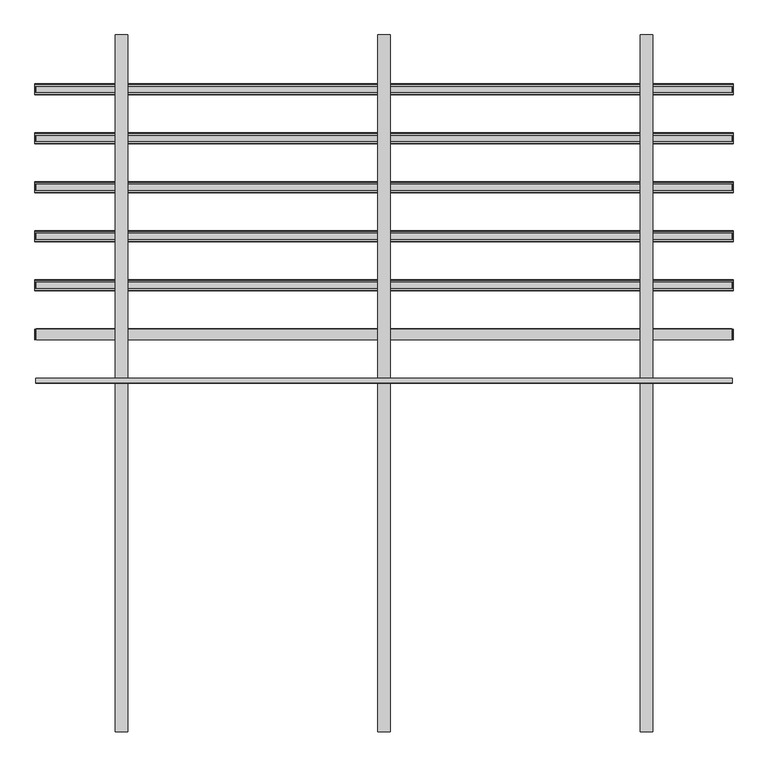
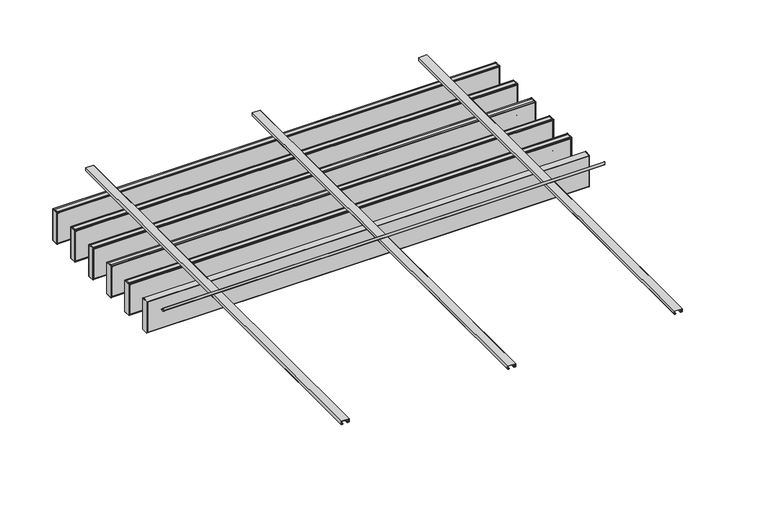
"""IFC4 building model written with IfcOpenShell, lengths in millimetres: proxy geometry, durlum_POLYLAM_KS : durlum_POLYLAM-KS/-S 63 RV-L6."""

from ifc_helpers import new_model, si_unit, point, frame, frame_2d, origin, place, context, project, spatial, polyline, circle_curve, trimmed, segment, composite_curve, outline, extrude, source, transform, mapped, element, save
from ifc_brep_helpers import plane_surface, cylinder_surface, advanced_brep


def generic_models_b5b58d67(model_context):
    return source(origin(), model_context, "Body", "SolidModel", [
        extrude(outline(polyline([(2027.0, 20.5), (2020.0, 20.5), (2020.0, 35.0), (2050.0, 35.0), (2050.0, -35.0), (2020.0, -35.0), (2020.0, -20.5), (2027.0, -20.5), (2027.0, -22.0), (2021.5, -22.0), (2021.5, -33.5), (2048.5, -33.5), (2048.5, 33.5), (2021.5, 33.5), (2021.5, 22.0), (2027.0, 22.0), (2027.0, 20.5)])), frame((0.0, -1991.5, 0.0), z_axis=(0.0, 1.0, 0.0), x_axis=(0.0, 0.0, 1.0)), (0.0, 0.0, 1.0), 3983.0),
        extrude(outline(polyline([(2027.0, -1479.5), (2020.0, -1479.5), (2020.0, -1465.0), (2050.0, -1465.0), (2050.0, -1535.0), (2020.0, -1535.0), (2020.0, -1520.5), (2027.0, -1520.5), (2027.0, -1522.0), (2021.5, -1522.0), (2021.5, -1533.5), (2048.5, -1533.5), (2048.5, -1466.5), (2021.5, -1466.5), (2021.5, -1478.0), (2027.0, -1478.0), (2027.0, -1479.5)])), frame((0.0, -1991.5, 0.0), z_axis=(0.0, 1.0, 0.0), x_axis=(0.0, 0.0, 1.0)), (0.0, 0.0, 1.0), 3983.0),
        extrude(outline(polyline([(2027.0, 1520.5), (2020.0, 1520.5), (2020.0, 1535.0), (2050.0, 1535.0), (2050.0, 1465.0), (2020.0, 1465.0), (2020.0, 1479.5), (2027.0, 1479.5), (2027.0, 1478.0), (2021.5, 1478.0), (2021.5, 1466.5), (2048.5, 1466.5), (2048.5, 1533.5), (2021.5, 1533.5), (2021.5, 1522.0), (2027.0, 1522.0), (2027.0, 1520.5)])), frame((0.0, -1991.5, 0.0), z_axis=(0.0, 1.0, 0.0), x_axis=(0.0, 0.0, 1.0)), (0.0, 0.0, 1.0), 3983.0),
        extrude(outline(composite_curve([segment(polyline([(2.0, 2079.9), (2.0, 2054.0)]), True, "CONTINUOUS"), segment(trimmed(circle_curve(frame_2d((4.0, 2054.0)), 2.0), [point((2.0, 2054.0))], [point((4.0, 2052.0))], True, "CARTESIAN"), True, "CONTINUOUS"), segment(polyline([(4.0, 2052.0), (29.9, 2052.0), (29.9, 2050.0), (4.0, 2050.0)]), True, "CONTINUOUS"), segment(trimmed(circle_curve(frame_2d((4.0, 2054.0)), 4.0), [point((4.0, 2050.0))], [point((0.0, 2054.0))], False, "CARTESIAN"), True, "CONTINUOUS"), segment(polyline([(0.0, 2054.0), (0.0, 2079.9), (2.0, 2079.9)]), True, "CONTINUOUS")], self_intersect=False)), frame((-1990.0, 0.0, 0.0), z_axis=(1.0, 0.0, 0.0), x_axis=(0.0, 1.0, 0.0)), (0.0, 0.0, 1.0), 3980.0),
        extrude(outline(polyline([(1993.0, 1710.5), (1995.0, 1710.5), (1995.0, 1649.5), (1993.0, 1649.5), (1993.0, 1710.5)])), frame((0.0, 0.0, 1691.9), z_axis=(0.0, 0.0, 1.0), x_axis=(1.0, 0.0, 0.0)), (0.0, 0.0, 1.0), 298.1604454),
        extrude(outline(polyline([(-1995.0, 1710.5), (-1993.0, 1710.5), (-1993.0, 1649.5), (-1995.0, 1649.5), (-1995.0, 1710.5)])), frame((0.0, 0.0, 1691.9), z_axis=(0.0, 0.0, 1.0), x_axis=(1.0, 0.0, 0.0)), (0.0, 0.0, 1.0), 298.1604454),
        extrude(outline(polyline([(1986.5, 1710.5), (1986.5, 1649.5), (-1986.5, 1649.5), (-1986.5, 1710.5), (1986.5, 1710.5)])), frame((0.0, 0.0, 1691.9), z_axis=(0.0, 0.0, 1.0), x_axis=(1.0, 0.0, 0.0)), (0.0, 0.0, 1.0), 298.0),
        extrude(outline(polyline([(1986.5, 1710.5), (-1986.5, 1710.5), (-1986.5, 1711.5), (1986.5, 1711.5), (1986.5, 1710.5)])), frame((0.0, 0.0, 1699.4), z_axis=(0.0, 0.0, 1.0), x_axis=(1.0, 0.0, 0.0)), (0.0, 0.0, 1.0), 283.0),
        extrude(outline(polyline([(1986.5, 1648.5), (-1986.5, 1648.5), (-1986.5, 1649.5), (1986.5, 1649.5), (1986.5, 1648.5)])), frame((0.0, 0.0, 1699.4), z_axis=(0.0, 0.0, 1.0), x_axis=(1.0, 0.0, 0.0)), (0.0, 0.0, 1.0), 283.0),
        advanced_brep(
        [(1995.0, 1709.5, 1990.9), (1995.0, 1699.5, 1990.9), (1995.0, 1699.5, 1990.0604454), (1995.0, 1710.5, 1990.0604454), (1995.0, 1710.5, 1691.9), (1995.0, 1649.5, 1691.9), (1995.0, 1649.5, 1989.8155735), (1995.0, 1660.5, 1989.8155735), (1995.0, 1660.5, 1990.9), (1995.0, 1650.5, 1990.9), (1995.0, 1648.5, 1988.9), (1995.0, 1648.5, 1692.9), (1995.0, 1650.5, 1690.9), (1995.0, 1709.5, 1690.9), (1995.0, 1711.5, 1692.9), (1995.0, 1711.5, 1988.9), (-1995.0, 1709.5, 1990.9), (-1995.0, 1711.5, 1988.9), (-1995.0, 1711.5, 1692.9), (-1995.0, 1709.5, 1690.9), (-1995.0, 1650.5, 1690.9), (-1995.0, 1648.5, 1692.9), (-1995.0, 1648.5, 1988.9), (-1995.0, 1650.5, 1990.9), (-1995.0, 1660.5, 1990.9), (-1995.0, 1660.5, 1989.8155735), (-1995.0, 1649.5, 1989.8155735), (-1995.0, 1649.5, 1691.9), (-1995.0, 1710.5, 1691.9), (-1995.0, 1710.5, 1990.0604454), (-1995.0, 1699.5, 1990.0604454), (-1995.0, 1699.5, 1990.9), (-1986.5, 1710.5, 1982.4), (1986.5, 1710.5, 1982.4), (1986.5, 1710.5, 1699.4), (-1986.5, 1710.5, 1699.4), (1986.5, 1649.5, 1982.4), (-1986.5, 1649.5, 1982.4), (-1986.5, 1649.5, 1699.4), (1986.5, 1649.5, 1699.4), (-1986.5, 1648.5, 1982.4), (1986.5, 1648.5, 1982.4), (1986.5, 1648.5, 1699.4), (-1986.5, 1648.5, 1699.4), (1986.5, 1711.5, 1982.4), (-1986.5, 1711.5, 1982.4), (-1986.5, 1711.5, 1699.4), (1986.5, 1711.5, 1699.4)],
        [
            (0, 1),
            (1, 2),
            (2, 3),
            (3, 4),
            (4, 5),
            (5, 6),
            (6, 7),
            (7, 8),
            (8, 9),
            (9, 10, circle_curve(frame((1995.0, 1650.5, 1988.9), z_axis=(1.0, 0.0, 0.0), x_axis=(0.0, 1.0, 0.0)), 2.0)),
            (10, 11),
            (11, 12, circle_curve(frame((1995.0, 1650.5, 1692.9), z_axis=(1.0, 0.0, 0.0), x_axis=(0.0, 1.0, 0.0)), 2.0)),
            (12, 13),
            (13, 14, circle_curve(frame((1995.0, 1709.5, 1692.9), z_axis=(1.0, 0.0, 0.0), x_axis=(0.0, 1.0, 0.0)), 2.0)),
            (14, 15),
            (15, 0, circle_curve(frame((1995.0, 1709.5, 1988.9), z_axis=(1.0, 0.0, 0.0), x_axis=(0.0, 1.0, 0.0)), 2.0)),
            (16, 17, circle_curve(frame((-1995.0, 1709.5, 1988.9), z_axis=(-1.0, 0.0, 0.0), x_axis=(0.0, 1.0, 0.0)), 2.0)),
            (17, 18),
            (18, 19, circle_curve(frame((-1995.0, 1709.5, 1692.9), z_axis=(-1.0, 0.0, 0.0), x_axis=(0.0, 1.0, 0.0)), 2.0)),
            (19, 20),
            (20, 21, circle_curve(frame((-1995.0, 1650.5, 1692.9), z_axis=(-1.0, 0.0, 0.0), x_axis=(0.0, 1.0, 0.0)), 2.0)),
            (21, 22),
            (22, 23, circle_curve(frame((-1995.0, 1650.5, 1988.9), z_axis=(-1.0, 0.0, 0.0), x_axis=(0.0, 1.0, 0.0)), 2.0)),
            (23, 24),
            (24, 25),
            (25, 26),
            (26, 27),
            (27, 28),
            (28, 29),
            (29, 30),
            (30, 31),
            (31, 16),
            (0, 16),
            (31, 1),
            (30, 2),
            (29, 3),
            (28, 4),
            (32, 33),
            (33, 34),
            (34, 35),
            (35, 32),
            (27, 5),
            (26, 6),
            (36, 37),
            (37, 38),
            (38, 39),
            (39, 36),
            (25, 7),
            (24, 8),
            (23, 9),
            (10, 22),
            (21, 11),
            (40, 41),
            (41, 42),
            (42, 43),
            (43, 40),
            (12, 20),
            (19, 13),
            (14, 18),
            (17, 15),
            (44, 45),
            (45, 46),
            (46, 47),
            (47, 44),
            (44, 33),
            (32, 45),
            (36, 41),
            (40, 37),
            (35, 46),
            (43, 38),
            (34, 47),
            (42, 39),
        ],
        [
            plane_surface(frame((1995.0, 1699.5, 1990.9), z_axis=(1.0, 0.0, 0.0), x_axis=(0.0, -1.0, 0.0))),
            plane_surface(frame((-1995.0, 1699.5, 1990.9), z_axis=(-1.0, 0.0, 0.0), x_axis=(0.0, 1.0, 0.0))),
            plane_surface(frame((1995.0, 1709.5, 1990.9), z_axis=(0.0, 0.0, 1.0), x_axis=(-1.0, 0.0, 0.0))),
            plane_surface(frame((1995.0, 1699.5, 1990.9), z_axis=(0.0, -1.0, 0.0), x_axis=(-1.0, 0.0, 0.0))),
            plane_surface(frame((1995.0, 1699.5, 1990.0604454), z_axis=(0.0, 0.0, -1.0), x_axis=(-1.0, 0.0, 0.0))),
            plane_surface(frame((1995.0, 1710.5, 1990.0604454), z_axis=(0.0, -1.0, 0.0), x_axis=(-1.0, 0.0, 0.0))),
            plane_surface(frame((1995.0, 1710.5, 1691.9), z_axis=(0.0, 0.0, 1.0), x_axis=(-1.0, 0.0, 0.0))),
            plane_surface(frame((1995.0, 1649.5, 1691.9), z_axis=(0.0, 1.0, 0.0), x_axis=(-1.0, 0.0, 0.0))),
            plane_surface(frame((1995.0, 1649.5, 1989.8155735), z_axis=(0.0, 0.0, -1.0), x_axis=(-1.0, 0.0, 0.0))),
            plane_surface(frame((1995.0, 1660.5, 1989.8155735), z_axis=(0.0, 1.0, 0.0), x_axis=(-1.0, 0.0, 0.0))),
            plane_surface(frame((1995.0, 1660.5, 1990.9), z_axis=(0.0, 0.0, 1.0), x_axis=(-1.0, 0.0, 0.0))),
            plane_surface(frame((1995.0, 1648.5, 1988.9), z_axis=(0.0, -1.0, 0.0), x_axis=(-1.0, 0.0, 0.0))),
            plane_surface(frame((1995.0, 1650.5, 1690.9), z_axis=(0.0, 0.0, -1.0), x_axis=(-1.0, 0.0, 0.0))),
            plane_surface(frame((1995.0, 1711.5, 1692.9), z_axis=(0.0, 1.0, 0.0), x_axis=(-1.0, 0.0, 0.0))),
            cylinder_surface(frame((-1995.0, 1650.5, 1988.9), z_axis=(1.0, 0.0, 0.0), x_axis=(0.0, 1.0, 0.0)), 2.0),
            cylinder_surface(frame((-1995.0, 1650.5, 1692.9), z_axis=(1.0, 0.0, 0.0), x_axis=(0.0, 1.0, 0.0)), 2.0),
            cylinder_surface(frame((-1995.0, 1709.5, 1692.9), z_axis=(1.0, 0.0, 0.0), x_axis=(0.0, 1.0, 0.0)), 2.0),
            cylinder_surface(frame((-1995.0, 1709.5, 1988.9), z_axis=(1.0, 0.0, 0.0), x_axis=(0.0, 1.0, 0.0)), 2.0),
            plane_surface(frame((1986.5, 1648.5, 1982.4), z_axis=(0.0, 0.0, -1.0), x_axis=(0.0, 1.0, 0.0))),
            plane_surface(frame((-1986.5, 1648.5, 1982.4), z_axis=(1.0, 0.0, 0.0), x_axis=(0.0, 1.0, 0.0))),
            plane_surface(frame((-1986.5, 1648.5, 1699.4), z_axis=(0.0, 0.0, 1.0), x_axis=(0.0, 1.0, 0.0))),
            plane_surface(frame((1986.5, 1648.5, 1699.4), z_axis=(-1.0, 0.0, 0.0), x_axis=(0.0, 1.0, 0.0))),
        ],
        [
            (0, [[1, 2, 3, 4, 5, 6, 7, 8, 9, 10, 11, 12, 13, 14, 15, 16]]),
            (1, [[17, 18, 19, 20, 21, 22, 23, 24, 25, 26, 27, 28, 29, 30, 31, 32]]),
            (2, [[-1, 33, -32, 34]]),
            (3, [[-2, -34, -31, 35]]),
            (4, [[-3, -35, -30, 36]]),
            (5, [[-4, -36, -29, 37], [38, 39, 40, 41]]),
            (6, [[-5, -37, -28, 42]]),
            (7, [[-6, -42, -27, 43], [44, 45, 46, 47]]),
            (8, [[-7, -43, -26, 48]]),
            (9, [[-8, -48, -25, 49]]),
            (10, [[-9, -49, -24, 50]]),
            (11, [[-11, 51, -22, 52], [53, 54, 55, 56]]),
            (12, [[-13, 57, -20, 58]]),
            (13, [[-15, 59, -18, 60], [61, 62, 63, 64]]),
            (14, [[-10, -50, -23, -51]]),
            (15, [[-12, -52, -21, -57]]),
            (16, [[-14, -58, -19, -59]]),
            (17, [[-16, -60, -17, -33]]),
            (18, [[65, -38, 66, -61]]),
            (18, [[67, -53, 68, -44]]),
            (19, [[-66, -41, 69, -62]]),
            (19, [[-68, -56, 70, -45]]),
            (20, [[-69, -40, 71, -63]]),
            (20, [[-70, -55, 72, -46]]),
            (21, [[-65, -64, -71, -39]]),
            (21, [[-67, -47, -72, -54]]),
        ],
    ),
        extrude(outline(polyline([(1993.0, 1430.5), (1995.0, 1430.5), (1995.0, 1369.5), (1993.0, 1369.5), (1993.0, 1430.5)])), frame((0.0, 0.0, 1691.9), z_axis=(0.0, 0.0, 1.0), x_axis=(1.0, 0.0, 0.0)), (0.0, 0.0, 1.0), 298.1604454),
        extrude(outline(polyline([(-1995.0, 1430.5), (-1993.0, 1430.5), (-1993.0, 1369.5), (-1995.0, 1369.5), (-1995.0, 1430.5)])), frame((0.0, 0.0, 1691.9), z_axis=(0.0, 0.0, 1.0), x_axis=(1.0, 0.0, 0.0)), (0.0, 0.0, 1.0), 298.1604454),
        extrude(outline(polyline([(1986.5, 1430.5), (1986.5, 1369.5), (-1986.5, 1369.5), (-1986.5, 1430.5), (1986.5, 1430.5)])), frame((0.0, 0.0, 1691.9), z_axis=(0.0, 0.0, 1.0), x_axis=(1.0, 0.0, 0.0)), (0.0, 0.0, 1.0), 298.0),
        extrude(outline(polyline([(1986.5, 1430.5), (-1986.5, 1430.5), (-1986.5, 1431.5), (1986.5, 1431.5), (1986.5, 1430.5)])), frame((0.0, 0.0, 1699.4), z_axis=(0.0, 0.0, 1.0), x_axis=(1.0, 0.0, 0.0)), (0.0, 0.0, 1.0), 283.0),
        extrude(outline(polyline([(1986.5, 1368.5), (-1986.5, 1368.5), (-1986.5, 1369.5), (1986.5, 1369.5), (1986.5, 1368.5)])), frame((0.0, 0.0, 1699.4), z_axis=(0.0, 0.0, 1.0), x_axis=(1.0, 0.0, 0.0)), (0.0, 0.0, 1.0), 283.0),
        advanced_brep(
        [(1995.0, 1429.5, 1990.9), (1995.0, 1419.5, 1990.9), (1995.0, 1419.5, 1990.0604454), (1995.0, 1430.5, 1990.0604454), (1995.0, 1430.5, 1691.9), (1995.0, 1369.5, 1691.9), (1995.0, 1369.5, 1989.8155735), (1995.0, 1380.5, 1989.8155735), (1995.0, 1380.5, 1990.9), (1995.0, 1370.5, 1990.9), (1995.0, 1368.5, 1988.9), (1995.0, 1368.5, 1692.9), (1995.0, 1370.5, 1690.9), (1995.0, 1429.5, 1690.9), (1995.0, 1431.5, 1692.9), (1995.0, 1431.5, 1988.9), (-1995.0, 1429.5, 1990.9), (-1995.0, 1431.5, 1988.9), (-1995.0, 1431.5, 1692.9), (-1995.0, 1429.5, 1690.9), (-1995.0, 1370.5, 1690.9), (-1995.0, 1368.5, 1692.9), (-1995.0, 1368.5, 1988.9), (-1995.0, 1370.5, 1990.9), (-1995.0, 1380.5, 1990.9), (-1995.0, 1380.5, 1989.8155735), (-1995.0, 1369.5, 1989.8155735), (-1995.0, 1369.5, 1691.9), (-1995.0, 1430.5, 1691.9), (-1995.0, 1430.5, 1990.0604454), (-1995.0, 1419.5, 1990.0604454), (-1995.0, 1419.5, 1990.9), (-1986.5, 1430.5, 1982.4), (1986.5, 1430.5, 1982.4), (1986.5, 1430.5, 1699.4), (-1986.5, 1430.5, 1699.4), (1986.5, 1369.5, 1982.4), (-1986.5, 1369.5, 1982.4), (-1986.5, 1369.5, 1699.4), (1986.5, 1369.5, 1699.4), (-1986.5, 1368.5, 1982.4), (1986.5, 1368.5, 1982.4), (1986.5, 1368.5, 1699.4), (-1986.5, 1368.5, 1699.4), (1986.5, 1431.5, 1982.4), (-1986.5, 1431.5, 1982.4), (-1986.5, 1431.5, 1699.4), (1986.5, 1431.5, 1699.4)],
        [
            (0, 1),
            (1, 2),
            (2, 3),
            (3, 4),
            (4, 5),
            (5, 6),
            (6, 7),
            (7, 8),
            (8, 9),
            (9, 10, circle_curve(frame((1995.0, 1370.5, 1988.9), z_axis=(1.0, 0.0, 0.0), x_axis=(0.0, 1.0, 0.0)), 2.0)),
            (10, 11),
            (11, 12, circle_curve(frame((1995.0, 1370.5, 1692.9), z_axis=(1.0, 0.0, 0.0), x_axis=(0.0, 1.0, 0.0)), 2.0)),
            (12, 13),
            (13, 14, circle_curve(frame((1995.0, 1429.5, 1692.9), z_axis=(1.0, 0.0, 0.0), x_axis=(0.0, 1.0, 0.0)), 2.0)),
            (14, 15),
            (15, 0, circle_curve(frame((1995.0, 1429.5, 1988.9), z_axis=(1.0, 0.0, 0.0), x_axis=(0.0, 1.0, 0.0)), 2.0)),
            (16, 17, circle_curve(frame((-1995.0, 1429.5, 1988.9), z_axis=(-1.0, 0.0, 0.0), x_axis=(0.0, 1.0, 0.0)), 2.0)),
            (17, 18),
            (18, 19, circle_curve(frame((-1995.0, 1429.5, 1692.9), z_axis=(-1.0, 0.0, 0.0), x_axis=(0.0, 1.0, 0.0)), 2.0)),
            (19, 20),
            (20, 21, circle_curve(frame((-1995.0, 1370.5, 1692.9), z_axis=(-1.0, 0.0, 0.0), x_axis=(0.0, 1.0, 0.0)), 2.0)),
            (21, 22),
            (22, 23, circle_curve(frame((-1995.0, 1370.5, 1988.9), z_axis=(-1.0, 0.0, 0.0), x_axis=(0.0, 1.0, 0.0)), 2.0)),
            (23, 24),
            (24, 25),
            (25, 26),
            (26, 27),
            (27, 28),
            (28, 29),
            (29, 30),
            (30, 31),
            (31, 16),
            (0, 16),
            (31, 1),
            (30, 2),
            (29, 3),
            (28, 4),
            (32, 33),
            (33, 34),
            (34, 35),
            (35, 32),
            (27, 5),
            (26, 6),
            (36, 37),
            (37, 38),
            (38, 39),
            (39, 36),
            (25, 7),
            (24, 8),
            (23, 9),
            (10, 22),
            (21, 11),
            (40, 41),
            (41, 42),
            (42, 43),
            (43, 40),
            (12, 20),
            (19, 13),
            (14, 18),
            (17, 15),
            (44, 45),
            (45, 46),
            (46, 47),
            (47, 44),
            (44, 33),
            (32, 45),
            (36, 41),
            (40, 37),
            (35, 46),
            (43, 38),
            (34, 47),
            (42, 39),
        ],
        [
            plane_surface(frame((1995.0, 1419.5, 1990.9), z_axis=(1.0, 0.0, 0.0), x_axis=(0.0, -1.0, 0.0))),
            plane_surface(frame((-1995.0, 1419.5, 1990.9), z_axis=(-1.0, 0.0, 0.0), x_axis=(0.0, 1.0, 0.0))),
            plane_surface(frame((1995.0, 1429.5, 1990.9), z_axis=(0.0, 0.0, 1.0), x_axis=(-1.0, 0.0, 0.0))),
            plane_surface(frame((1995.0, 1419.5, 1990.9), z_axis=(0.0, -1.0, 0.0), x_axis=(-1.0, 0.0, 0.0))),
            plane_surface(frame((1995.0, 1419.5, 1990.0604454), z_axis=(0.0, 0.0, -1.0), x_axis=(-1.0, 0.0, 0.0))),
            plane_surface(frame((1995.0, 1430.5, 1990.0604454), z_axis=(0.0, -1.0, 0.0), x_axis=(-1.0, 0.0, 0.0))),
            plane_surface(frame((1995.0, 1430.5, 1691.9), z_axis=(0.0, 0.0, 1.0), x_axis=(-1.0, 0.0, 0.0))),
            plane_surface(frame((1995.0, 1369.5, 1691.9), z_axis=(0.0, 1.0, 0.0), x_axis=(-1.0, 0.0, 0.0))),
            plane_surface(frame((1995.0, 1369.5, 1989.8155735), z_axis=(0.0, 0.0, -1.0), x_axis=(-1.0, 0.0, 0.0))),
            plane_surface(frame((1995.0, 1380.5, 1989.8155735), z_axis=(0.0, 1.0, 0.0), x_axis=(-1.0, 0.0, 0.0))),
            plane_surface(frame((1995.0, 1380.5, 1990.9), z_axis=(0.0, 0.0, 1.0), x_axis=(-1.0, 0.0, 0.0))),
            plane_surface(frame((1995.0, 1368.5, 1988.9), z_axis=(0.0, -1.0, 0.0), x_axis=(-1.0, 0.0, 0.0))),
            plane_surface(frame((1995.0, 1370.5, 1690.9), z_axis=(0.0, 0.0, -1.0), x_axis=(-1.0, 0.0, 0.0))),
            plane_surface(frame((1995.0, 1431.5, 1692.9), z_axis=(0.0, 1.0, 0.0), x_axis=(-1.0, 0.0, 0.0))),
            cylinder_surface(frame((-1995.0, 1370.5, 1988.9), z_axis=(1.0, 0.0, 0.0), x_axis=(0.0, 1.0, 0.0)), 2.0),
            cylinder_surface(frame((-1995.0, 1370.5, 1692.9), z_axis=(1.0, 0.0, 0.0), x_axis=(0.0, 1.0, 0.0)), 2.0),
            cylinder_surface(frame((-1995.0, 1429.5, 1692.9), z_axis=(1.0, 0.0, 0.0), x_axis=(0.0, 1.0, 0.0)), 2.0),
            cylinder_surface(frame((-1995.0, 1429.5, 1988.9), z_axis=(1.0, 0.0, 0.0), x_axis=(0.0, 1.0, 0.0)), 2.0),
            plane_surface(frame((1986.5, 1368.5, 1982.4), z_axis=(0.0, 0.0, -1.0), x_axis=(0.0, 1.0, 0.0))),
            plane_surface(frame((-1986.5, 1368.5, 1982.4), z_axis=(1.0, 0.0, 0.0), x_axis=(0.0, 1.0, 0.0))),
            plane_surface(frame((-1986.5, 1368.5, 1699.4), z_axis=(0.0, 0.0, 1.0), x_axis=(0.0, 1.0, 0.0))),
            plane_surface(frame((1986.5, 1368.5, 1699.4), z_axis=(-1.0, 0.0, 0.0), x_axis=(0.0, 1.0, 0.0))),
        ],
        [
            (0, [[1, 2, 3, 4, 5, 6, 7, 8, 9, 10, 11, 12, 13, 14, 15, 16]]),
            (1, [[17, 18, 19, 20, 21, 22, 23, 24, 25, 26, 27, 28, 29, 30, 31, 32]]),
            (2, [[-1, 33, -32, 34]]),
            (3, [[-2, -34, -31, 35]]),
            (4, [[-3, -35, -30, 36]]),
            (5, [[-4, -36, -29, 37], [38, 39, 40, 41]]),
            (6, [[-5, -37, -28, 42]]),
            (7, [[-6, -42, -27, 43], [44, 45, 46, 47]]),
            (8, [[-7, -43, -26, 48]]),
            (9, [[-8, -48, -25, 49]]),
            (10, [[-9, -49, -24, 50]]),
            (11, [[-11, 51, -22, 52], [53, 54, 55, 56]]),
            (12, [[-13, 57, -20, 58]]),
            (13, [[-15, 59, -18, 60], [61, 62, 63, 64]]),
            (14, [[-10, -50, -23, -51]]),
            (15, [[-12, -52, -21, -57]]),
            (16, [[-14, -58, -19, -59]]),
            (17, [[-16, -60, -17, -33]]),
            (18, [[65, -38, 66, -61]]),
            (18, [[67, -53, 68, -44]]),
            (19, [[-66, -41, 69, -62]]),
            (19, [[-68, -56, 70, -45]]),
            (20, [[-69, -40, 71, -63]]),
            (20, [[-70, -55, 72, -46]]),
            (21, [[-65, -64, -71, -39]]),
            (21, [[-67, -47, -72, -54]]),
        ],
    ),
        extrude(outline(polyline([(1993.0, 1150.5), (1995.0, 1150.5), (1995.0, 1089.5), (1993.0, 1089.5), (1993.0, 1150.5)])), frame((0.0, 0.0, 1691.9), z_axis=(0.0, 0.0, 1.0), x_axis=(1.0, 0.0, 0.0)), (0.0, 0.0, 1.0), 298.1604454),
        extrude(outline(polyline([(-1995.0, 1150.5), (-1993.0, 1150.5), (-1993.0, 1089.5), (-1995.0, 1089.5), (-1995.0, 1150.5)])), frame((0.0, 0.0, 1691.9), z_axis=(0.0, 0.0, 1.0), x_axis=(1.0, 0.0, 0.0)), (0.0, 0.0, 1.0), 298.1604454),
        extrude(outline(polyline([(1986.5, 1150.5), (1986.5, 1089.5), (-1986.5, 1089.5), (-1986.5, 1150.5), (1986.5, 1150.5)])), frame((0.0, 0.0, 1691.9), z_axis=(0.0, 0.0, 1.0), x_axis=(1.0, 0.0, 0.0)), (0.0, 0.0, 1.0), 298.0),
        extrude(outline(polyline([(1986.5, 1150.5), (-1986.5, 1150.5), (-1986.5, 1151.5), (1986.5, 1151.5), (1986.5, 1150.5)])), frame((0.0, 0.0, 1699.4), z_axis=(0.0, 0.0, 1.0), x_axis=(1.0, 0.0, 0.0)), (0.0, 0.0, 1.0), 283.0),
        extrude(outline(polyline([(1986.5, 1088.5), (-1986.5, 1088.5), (-1986.5, 1089.5), (1986.5, 1089.5), (1986.5, 1088.5)])), frame((0.0, 0.0, 1699.4), z_axis=(0.0, 0.0, 1.0), x_axis=(1.0, 0.0, 0.0)), (0.0, 0.0, 1.0), 283.0),
        advanced_brep(
        [(1995.0, 1149.5, 1990.9), (1995.0, 1139.5, 1990.9), (1995.0, 1139.5, 1990.0604454), (1995.0, 1150.5, 1990.0604454), (1995.0, 1150.5, 1691.9), (1995.0, 1089.5, 1691.9), (1995.0, 1089.5, 1989.8155735), (1995.0, 1100.5, 1989.8155735), (1995.0, 1100.5, 1990.9), (1995.0, 1090.5, 1990.9), (1995.0, 1088.5, 1988.9), (1995.0, 1088.5, 1692.9), (1995.0, 1090.5, 1690.9), (1995.0, 1149.5, 1690.9), (1995.0, 1151.5, 1692.9), (1995.0, 1151.5, 1988.9), (-1995.0, 1149.5, 1990.9), (-1995.0, 1151.5, 1988.9), (-1995.0, 1151.5, 1692.9), (-1995.0, 1149.5, 1690.9), (-1995.0, 1090.5, 1690.9), (-1995.0, 1088.5, 1692.9), (-1995.0, 1088.5, 1988.9), (-1995.0, 1090.5, 1990.9), (-1995.0, 1100.5, 1990.9), (-1995.0, 1100.5, 1989.8155735), (-1995.0, 1089.5, 1989.8155735), (-1995.0, 1089.5, 1691.9), (-1995.0, 1150.5, 1691.9), (-1995.0, 1150.5, 1990.0604454), (-1995.0, 1139.5, 1990.0604454), (-1995.0, 1139.5, 1990.9), (-1986.5, 1150.5, 1982.4), (1986.5, 1150.5, 1982.4), (1986.5, 1150.5, 1699.4), (-1986.5, 1150.5, 1699.4), (1986.5, 1089.5, 1982.4), (-1986.5, 1089.5, 1982.4), (-1986.5, 1089.5, 1699.4), (1986.5, 1089.5, 1699.4), (-1986.5, 1088.5, 1982.4), (1986.5, 1088.5, 1982.4), (1986.5, 1088.5, 1699.4), (-1986.5, 1088.5, 1699.4), (1986.5, 1151.5, 1982.4), (-1986.5, 1151.5, 1982.4), (-1986.5, 1151.5, 1699.4), (1986.5, 1151.5, 1699.4)],
        [
            (0, 1),
            (1, 2),
            (2, 3),
            (3, 4),
            (4, 5),
            (5, 6),
            (6, 7),
            (7, 8),
            (8, 9),
            (9, 10, circle_curve(frame((1995.0, 1090.5, 1988.9), z_axis=(1.0, 0.0, 0.0), x_axis=(0.0, 1.0, 0.0)), 2.0)),
            (10, 11),
            (11, 12, circle_curve(frame((1995.0, 1090.5, 1692.9), z_axis=(1.0, 0.0, 0.0), x_axis=(0.0, 1.0, 0.0)), 2.0)),
            (12, 13),
            (13, 14, circle_curve(frame((1995.0, 1149.5, 1692.9), z_axis=(1.0, 0.0, 0.0), x_axis=(0.0, 1.0, 0.0)), 2.0)),
            (14, 15),
            (15, 0, circle_curve(frame((1995.0, 1149.5, 1988.9), z_axis=(1.0, 0.0, 0.0), x_axis=(0.0, 1.0, 0.0)), 2.0)),
            (16, 17, circle_curve(frame((-1995.0, 1149.5, 1988.9), z_axis=(-1.0, 0.0, 0.0), x_axis=(0.0, 1.0, 0.0)), 2.0)),
            (17, 18),
            (18, 19, circle_curve(frame((-1995.0, 1149.5, 1692.9), z_axis=(-1.0, 0.0, 0.0), x_axis=(0.0, 1.0, 0.0)), 2.0)),
            (19, 20),
            (20, 21, circle_curve(frame((-1995.0, 1090.5, 1692.9), z_axis=(-1.0, 0.0, 0.0), x_axis=(0.0, 1.0, 0.0)), 2.0)),
            (21, 22),
            (22, 23, circle_curve(frame((-1995.0, 1090.5, 1988.9), z_axis=(-1.0, 0.0, 0.0), x_axis=(0.0, 1.0, 0.0)), 2.0)),
            (23, 24),
            (24, 25),
            (25, 26),
            (26, 27),
            (27, 28),
            (28, 29),
            (29, 30),
            (30, 31),
            (31, 16),
            (0, 16),
            (31, 1),
            (30, 2),
            (29, 3),
            (28, 4),
            (32, 33),
            (33, 34),
            (34, 35),
            (35, 32),
            (27, 5),
            (26, 6),
            (36, 37),
            (37, 38),
            (38, 39),
            (39, 36),
            (25, 7),
            (24, 8),
            (23, 9),
            (10, 22),
            (21, 11),
            (40, 41),
            (41, 42),
            (42, 43),
            (43, 40),
            (12, 20),
            (19, 13),
            (14, 18),
            (17, 15),
            (44, 45),
            (45, 46),
            (46, 47),
            (47, 44),
            (44, 33),
            (32, 45),
            (36, 41),
            (40, 37),
            (35, 46),
            (43, 38),
            (34, 47),
            (42, 39),
        ],
        [
            plane_surface(frame((1995.0, 1139.5, 1990.9), z_axis=(1.0, 0.0, 0.0), x_axis=(0.0, -1.0, 0.0))),
            plane_surface(frame((-1995.0, 1139.5, 1990.9), z_axis=(-1.0, 0.0, 0.0), x_axis=(0.0, 1.0, 0.0))),
            plane_surface(frame((1995.0, 1149.5, 1990.9), z_axis=(0.0, 0.0, 1.0), x_axis=(-1.0, 0.0, 0.0))),
            plane_surface(frame((1995.0, 1139.5, 1990.9), z_axis=(0.0, -1.0, 0.0), x_axis=(-1.0, 0.0, 0.0))),
            plane_surface(frame((1995.0, 1139.5, 1990.0604454), z_axis=(0.0, 0.0, -1.0), x_axis=(-1.0, 0.0, 0.0))),
            plane_surface(frame((1995.0, 1150.5, 1990.0604454), z_axis=(0.0, -1.0, 0.0), x_axis=(-1.0, 0.0, 0.0))),
            plane_surface(frame((1995.0, 1150.5, 1691.9), z_axis=(0.0, 0.0, 1.0), x_axis=(-1.0, 0.0, 0.0))),
            plane_surface(frame((1995.0, 1089.5, 1691.9), z_axis=(0.0, 1.0, 0.0), x_axis=(-1.0, 0.0, 0.0))),
            plane_surface(frame((1995.0, 1089.5, 1989.8155735), z_axis=(0.0, 0.0, -1.0), x_axis=(-1.0, 0.0, 0.0))),
            plane_surface(frame((1995.0, 1100.5, 1989.8155735), z_axis=(0.0, 1.0, 0.0), x_axis=(-1.0, 0.0, 0.0))),
            plane_surface(frame((1995.0, 1100.5, 1990.9), z_axis=(0.0, 0.0, 1.0), x_axis=(-1.0, 0.0, 0.0))),
            plane_surface(frame((1995.0, 1088.5, 1988.9), z_axis=(0.0, -1.0, 0.0), x_axis=(-1.0, 0.0, 0.0))),
            plane_surface(frame((1995.0, 1090.5, 1690.9), z_axis=(0.0, 0.0, -1.0), x_axis=(-1.0, 0.0, 0.0))),
            plane_surface(frame((1995.0, 1151.5, 1692.9), z_axis=(0.0, 1.0, 0.0), x_axis=(-1.0, 0.0, 0.0))),
            cylinder_surface(frame((-1995.0, 1090.5, 1988.9), z_axis=(1.0, 0.0, 0.0), x_axis=(0.0, 1.0, 0.0)), 2.0),
            cylinder_surface(frame((-1995.0, 1090.5, 1692.9), z_axis=(1.0, 0.0, 0.0), x_axis=(0.0, 1.0, 0.0)), 2.0),
            cylinder_surface(frame((-1995.0, 1149.5, 1692.9), z_axis=(1.0, 0.0, 0.0), x_axis=(0.0, 1.0, 0.0)), 2.0),
            cylinder_surface(frame((-1995.0, 1149.5, 1988.9), z_axis=(1.0, 0.0, 0.0), x_axis=(0.0, 1.0, 0.0)), 2.0),
            plane_surface(frame((1986.5, 1088.5, 1982.4), z_axis=(0.0, 0.0, -1.0), x_axis=(0.0, 1.0, 0.0))),
            plane_surface(frame((-1986.5, 1088.5, 1982.4), z_axis=(1.0, 0.0, 0.0), x_axis=(0.0, 1.0, 0.0))),
            plane_surface(frame((-1986.5, 1088.5, 1699.4), z_axis=(0.0, 0.0, 1.0), x_axis=(0.0, 1.0, 0.0))),
            plane_surface(frame((1986.5, 1088.5, 1699.4), z_axis=(-1.0, 0.0, 0.0), x_axis=(0.0, 1.0, 0.0))),
        ],
        [
            (0, [[1, 2, 3, 4, 5, 6, 7, 8, 9, 10, 11, 12, 13, 14, 15, 16]]),
            (1, [[17, 18, 19, 20, 21, 22, 23, 24, 25, 26, 27, 28, 29, 30, 31, 32]]),
            (2, [[-1, 33, -32, 34]]),
            (3, [[-2, -34, -31, 35]]),
            (4, [[-3, -35, -30, 36]]),
            (5, [[-4, -36, -29, 37], [38, 39, 40, 41]]),
            (6, [[-5, -37, -28, 42]]),
            (7, [[-6, -42, -27, 43], [44, 45, 46, 47]]),
            (8, [[-7, -43, -26, 48]]),
            (9, [[-8, -48, -25, 49]]),
            (10, [[-9, -49, -24, 50]]),
            (11, [[-11, 51, -22, 52], [53, 54, 55, 56]]),
            (12, [[-13, 57, -20, 58]]),
            (13, [[-15, 59, -18, 60], [61, 62, 63, 64]]),
            (14, [[-10, -50, -23, -51]]),
            (15, [[-12, -52, -21, -57]]),
            (16, [[-14, -58, -19, -59]]),
            (17, [[-16, -60, -17, -33]]),
            (18, [[65, -38, 66, -61]]),
            (18, [[67, -53, 68, -44]]),
            (19, [[-66, -41, 69, -62]]),
            (19, [[-68, -56, 70, -45]]),
            (20, [[-69, -40, 71, -63]]),
            (20, [[-70, -55, 72, -46]]),
            (21, [[-65, -64, -71, -39]]),
            (21, [[-67, -47, -72, -54]]),
        ],
    ),
        extrude(outline(polyline([(1993.0, 870.5), (1995.0, 870.5), (1995.0, 809.5), (1993.0, 809.5), (1993.0, 870.5)])), frame((0.0, 0.0, 1691.9), z_axis=(0.0, 0.0, 1.0), x_axis=(1.0, 0.0, 0.0)), (0.0, 0.0, 1.0), 298.1604454),
        extrude(outline(polyline([(-1995.0, 870.5), (-1993.0, 870.5), (-1993.0, 809.5), (-1995.0, 809.5), (-1995.0, 870.5)])), frame((0.0, 0.0, 1691.9), z_axis=(0.0, 0.0, 1.0), x_axis=(1.0, 0.0, 0.0)), (0.0, 0.0, 1.0), 298.1604454),
        extrude(outline(polyline([(1986.5, 870.5), (1986.5, 809.5), (-1986.5, 809.5), (-1986.5, 870.5), (1986.5, 870.5)])), frame((0.0, 0.0, 1691.9), z_axis=(0.0, 0.0, 1.0), x_axis=(1.0, 0.0, 0.0)), (0.0, 0.0, 1.0), 298.0),
        extrude(outline(polyline([(1986.5, 870.5), (-1986.5, 870.5), (-1986.5, 871.5), (1986.5, 871.5), (1986.5, 870.5)])), frame((0.0, 0.0, 1699.4), z_axis=(0.0, 0.0, 1.0), x_axis=(1.0, 0.0, 0.0)), (0.0, 0.0, 1.0), 283.0),
        extrude(outline(polyline([(1986.5, 808.5), (-1986.5, 808.5), (-1986.5, 809.5), (1986.5, 809.5), (1986.5, 808.5)])), frame((0.0, 0.0, 1699.4), z_axis=(0.0, 0.0, 1.0), x_axis=(1.0, 0.0, 0.0)), (0.0, 0.0, 1.0), 283.0),
        advanced_brep(
        [(1995.0, 869.5, 1990.9), (1995.0, 859.5, 1990.9), (1995.0, 859.5, 1990.0604454), (1995.0, 870.5, 1990.0604454), (1995.0, 870.5, 1691.9), (1995.0, 809.5, 1691.9), (1995.0, 809.5, 1989.8155735), (1995.0, 820.5, 1989.8155735), (1995.0, 820.5, 1990.9), (1995.0, 810.5, 1990.9), (1995.0, 808.5, 1988.9), (1995.0, 808.5, 1692.9), (1995.0, 810.5, 1690.9), (1995.0, 869.5, 1690.9), (1995.0, 871.5, 1692.9), (1995.0, 871.5, 1988.9), (-1995.0, 869.5, 1990.9), (-1995.0, 871.5, 1988.9), (-1995.0, 871.5, 1692.9), (-1995.0, 869.5, 1690.9), (-1995.0, 810.5, 1690.9), (-1995.0, 808.5, 1692.9), (-1995.0, 808.5, 1988.9), (-1995.0, 810.5, 1990.9), (-1995.0, 820.5, 1990.9), (-1995.0, 820.5, 1989.8155735), (-1995.0, 809.5, 1989.8155735), (-1995.0, 809.5, 1691.9), (-1995.0, 870.5, 1691.9), (-1995.0, 870.5, 1990.0604454), (-1995.0, 859.5, 1990.0604454), (-1995.0, 859.5, 1990.9), (-1986.5, 870.5, 1982.4), (1986.5, 870.5, 1982.4), (1986.5, 870.5, 1699.4), (-1986.5, 870.5, 1699.4), (1986.5, 809.5, 1982.4), (-1986.5, 809.5, 1982.4), (-1986.5, 809.5, 1699.4), (1986.5, 809.5, 1699.4), (-1986.5, 808.5, 1982.4), (1986.5, 808.5, 1982.4), (1986.5, 808.5, 1699.4), (-1986.5, 808.5, 1699.4), (1986.5, 871.5, 1982.4), (-1986.5, 871.5, 1982.4), (-1986.5, 871.5, 1699.4), (1986.5, 871.5, 1699.4)],
        [
            (0, 1),
            (1, 2),
            (2, 3),
            (3, 4),
            (4, 5),
            (5, 6),
            (6, 7),
            (7, 8),
            (8, 9),
            (9, 10, circle_curve(frame((1995.0, 810.5, 1988.9), z_axis=(1.0, 0.0, 0.0), x_axis=(0.0, 1.0, 0.0)), 2.0)),
            (10, 11),
            (11, 12, circle_curve(frame((1995.0, 810.5, 1692.9), z_axis=(1.0, 0.0, 0.0), x_axis=(0.0, 1.0, 0.0)), 2.0)),
            (12, 13),
            (13, 14, circle_curve(frame((1995.0, 869.5, 1692.9), z_axis=(1.0, 0.0, 0.0), x_axis=(0.0, 1.0, 0.0)), 2.0)),
            (14, 15),
            (15, 0, circle_curve(frame((1995.0, 869.5, 1988.9), z_axis=(1.0, 0.0, 0.0), x_axis=(0.0, 1.0, 0.0)), 2.0)),
            (16, 17, circle_curve(frame((-1995.0, 869.5, 1988.9), z_axis=(-1.0, 0.0, 0.0), x_axis=(0.0, 1.0, 0.0)), 2.0)),
            (17, 18),
            (18, 19, circle_curve(frame((-1995.0, 869.5, 1692.9), z_axis=(-1.0, 0.0, 0.0), x_axis=(0.0, 1.0, 0.0)), 2.0)),
            (19, 20),
            (20, 21, circle_curve(frame((-1995.0, 810.5, 1692.9), z_axis=(-1.0, 0.0, 0.0), x_axis=(0.0, 1.0, 0.0)), 2.0)),
            (21, 22),
            (22, 23, circle_curve(frame((-1995.0, 810.5, 1988.9), z_axis=(-1.0, 0.0, 0.0), x_axis=(0.0, 1.0, 0.0)), 2.0)),
            (23, 24),
            (24, 25),
            (25, 26),
            (26, 27),
            (27, 28),
            (28, 29),
            (29, 30),
            (30, 31),
            (31, 16),
            (0, 16),
            (31, 1),
            (30, 2),
            (29, 3),
            (28, 4),
            (32, 33),
            (33, 34),
            (34, 35),
            (35, 32),
            (27, 5),
            (26, 6),
            (36, 37),
            (37, 38),
            (38, 39),
            (39, 36),
            (25, 7),
            (24, 8),
            (23, 9),
            (10, 22),
            (21, 11),
            (40, 41),
            (41, 42),
            (42, 43),
            (43, 40),
            (12, 20),
            (19, 13),
            (14, 18),
            (17, 15),
            (44, 45),
            (45, 46),
            (46, 47),
            (47, 44),
            (44, 33),
            (32, 45),
            (36, 41),
            (40, 37),
            (35, 46),
            (43, 38),
            (34, 47),
            (42, 39),
        ],
        [
            plane_surface(frame((1995.0, 859.5, 1990.9), z_axis=(1.0, 0.0, 0.0), x_axis=(0.0, -1.0, 0.0))),
            plane_surface(frame((-1995.0, 859.5, 1990.9), z_axis=(-1.0, 0.0, 0.0), x_axis=(0.0, 1.0, 0.0))),
            plane_surface(frame((1995.0, 869.5, 1990.9), z_axis=(0.0, 0.0, 1.0), x_axis=(-1.0, 0.0, 0.0))),
            plane_surface(frame((1995.0, 859.5, 1990.9), z_axis=(0.0, -1.0, 0.0), x_axis=(-1.0, 0.0, 0.0))),
            plane_surface(frame((1995.0, 859.5, 1990.0604454), z_axis=(0.0, 0.0, -1.0), x_axis=(-1.0, 0.0, 0.0))),
            plane_surface(frame((1995.0, 870.5, 1990.0604454), z_axis=(0.0, -1.0, 0.0), x_axis=(-1.0, 0.0, 0.0))),
            plane_surface(frame((1995.0, 870.5, 1691.9), z_axis=(0.0, 0.0, 1.0), x_axis=(-1.0, 0.0, 0.0))),
            plane_surface(frame((1995.0, 809.5, 1691.9), z_axis=(0.0, 1.0, 0.0), x_axis=(-1.0, 0.0, 0.0))),
            plane_surface(frame((1995.0, 809.5, 1989.8155735), z_axis=(0.0, 0.0, -1.0), x_axis=(-1.0, 0.0, 0.0))),
            plane_surface(frame((1995.0, 820.5, 1989.8155735), z_axis=(0.0, 1.0, 0.0), x_axis=(-1.0, 0.0, 0.0))),
            plane_surface(frame((1995.0, 820.5, 1990.9), z_axis=(0.0, 0.0, 1.0), x_axis=(-1.0, 0.0, 0.0))),
            plane_surface(frame((1995.0, 808.5, 1988.9), z_axis=(0.0, -1.0, 0.0), x_axis=(-1.0, 0.0, 0.0))),
            plane_surface(frame((1995.0, 810.5, 1690.9), z_axis=(0.0, 0.0, -1.0), x_axis=(-1.0, 0.0, 0.0))),
            plane_surface(frame((1995.0, 871.5, 1692.9), z_axis=(0.0, 1.0, 0.0), x_axis=(-1.0, 0.0, 0.0))),
            cylinder_surface(frame((-1995.0, 810.5, 1988.9), z_axis=(1.0, 0.0, 0.0), x_axis=(0.0, 1.0, 0.0)), 2.0),
            cylinder_surface(frame((-1995.0, 810.5, 1692.9), z_axis=(1.0, 0.0, 0.0), x_axis=(0.0, 1.0, 0.0)), 2.0),
            cylinder_surface(frame((-1995.0, 869.5, 1692.9), z_axis=(1.0, 0.0, 0.0), x_axis=(0.0, 1.0, 0.0)), 2.0),
            cylinder_surface(frame((-1995.0, 869.5, 1988.9), z_axis=(1.0, 0.0, 0.0), x_axis=(0.0, 1.0, 0.0)), 2.0),
            plane_surface(frame((1986.5, 808.5, 1982.4), z_axis=(0.0, 0.0, -1.0), x_axis=(0.0, 1.0, 0.0))),
            plane_surface(frame((-1986.5, 808.5, 1982.4), z_axis=(1.0, 0.0, 0.0), x_axis=(0.0, 1.0, 0.0))),
            plane_surface(frame((-1986.5, 808.5, 1699.4), z_axis=(0.0, 0.0, 1.0), x_axis=(0.0, 1.0, 0.0))),
            plane_surface(frame((1986.5, 808.5, 1699.4), z_axis=(-1.0, 0.0, 0.0), x_axis=(0.0, 1.0, 0.0))),
        ],
        [
            (0, [[1, 2, 3, 4, 5, 6, 7, 8, 9, 10, 11, 12, 13, 14, 15, 16]]),
            (1, [[17, 18, 19, 20, 21, 22, 23, 24, 25, 26, 27, 28, 29, 30, 31, 32]]),
            (2, [[-1, 33, -32, 34]]),
            (3, [[-2, -34, -31, 35]]),
            (4, [[-3, -35, -30, 36]]),
            (5, [[-4, -36, -29, 37], [38, 39, 40, 41]]),
            (6, [[-5, -37, -28, 42]]),
            (7, [[-6, -42, -27, 43], [44, 45, 46, 47]]),
            (8, [[-7, -43, -26, 48]]),
            (9, [[-8, -48, -25, 49]]),
            (10, [[-9, -49, -24, 50]]),
            (11, [[-11, 51, -22, 52], [53, 54, 55, 56]]),
            (12, [[-13, 57, -20, 58]]),
            (13, [[-15, 59, -18, 60], [61, 62, 63, 64]]),
            (14, [[-10, -50, -23, -51]]),
            (15, [[-12, -52, -21, -57]]),
            (16, [[-14, -58, -19, -59]]),
            (17, [[-16, -60, -17, -33]]),
            (18, [[65, -38, 66, -61]]),
            (18, [[67, -53, 68, -44]]),
            (19, [[-66, -41, 69, -62]]),
            (19, [[-68, -56, 70, -45]]),
            (20, [[-69, -40, 71, -63]]),
            (20, [[-70, -55, 72, -46]]),
            (21, [[-65, -64, -71, -39]]),
            (21, [[-67, -47, -72, -54]]),
        ],
    ),
        extrude(outline(polyline([(1993.0, 590.5), (1995.0, 590.5), (1995.0, 529.5), (1993.0, 529.5), (1993.0, 590.5)])), frame((0.0, 0.0, 1691.9), z_axis=(0.0, 0.0, 1.0), x_axis=(1.0, 0.0, 0.0)), (0.0, 0.0, 1.0), 298.1604454),
        extrude(outline(polyline([(-1995.0, 590.5), (-1993.0, 590.5), (-1993.0, 529.5), (-1995.0, 529.5), (-1995.0, 590.5)])), frame((0.0, 0.0, 1691.9), z_axis=(0.0, 0.0, 1.0), x_axis=(1.0, 0.0, 0.0)), (0.0, 0.0, 1.0), 298.1604454),
        extrude(outline(polyline([(1986.5, 590.5), (1986.5, 529.5), (-1986.5, 529.5), (-1986.5, 590.5), (1986.5, 590.5)])), frame((0.0, 0.0, 1691.9), z_axis=(0.0, 0.0, 1.0), x_axis=(1.0, 0.0, 0.0)), (0.0, 0.0, 1.0), 298.0),
        extrude(outline(polyline([(1986.5, 590.5), (-1986.5, 590.5), (-1986.5, 591.5), (1986.5, 591.5), (1986.5, 590.5)])), frame((0.0, 0.0, 1699.4), z_axis=(0.0, 0.0, 1.0), x_axis=(1.0, 0.0, 0.0)), (0.0, 0.0, 1.0), 283.0),
        extrude(outline(polyline([(1986.5, 528.5), (-1986.5, 528.5), (-1986.5, 529.5), (1986.5, 529.5), (1986.5, 528.5)])), frame((0.0, 0.0, 1699.4), z_axis=(0.0, 0.0, 1.0), x_axis=(1.0, 0.0, 0.0)), (0.0, 0.0, 1.0), 283.0),
        advanced_brep(
        [(1995.0, 589.5, 1990.9), (1995.0, 579.5, 1990.9), (1995.0, 579.5, 1990.0604454), (1995.0, 590.5, 1990.0604454), (1995.0, 590.5, 1691.9), (1995.0, 529.5, 1691.9), (1995.0, 529.5, 1989.8155735), (1995.0, 540.5, 1989.8155735), (1995.0, 540.5, 1990.9), (1995.0, 530.5, 1990.9), (1995.0, 528.5, 1988.9), (1995.0, 528.5, 1692.9), (1995.0, 530.5, 1690.9), (1995.0, 589.5, 1690.9), (1995.0, 591.5, 1692.9), (1995.0, 591.5, 1988.9), (-1995.0, 589.5, 1990.9), (-1995.0, 591.5, 1988.9), (-1995.0, 591.5, 1692.9), (-1995.0, 589.5, 1690.9), (-1995.0, 530.5, 1690.9), (-1995.0, 528.5, 1692.9), (-1995.0, 528.5, 1988.9), (-1995.0, 530.5, 1990.9), (-1995.0, 540.5, 1990.9), (-1995.0, 540.5, 1989.8155735), (-1995.0, 529.5, 1989.8155735), (-1995.0, 529.5, 1691.9), (-1995.0, 590.5, 1691.9), (-1995.0, 590.5, 1990.0604454), (-1995.0, 579.5, 1990.0604454), (-1995.0, 579.5, 1990.9), (-1986.5, 590.5, 1982.4), (1986.5, 590.5, 1982.4), (1986.5, 590.5, 1699.4), (-1986.5, 590.5, 1699.4), (1986.5, 529.5, 1982.4), (-1986.5, 529.5, 1982.4), (-1986.5, 529.5, 1699.4), (1986.5, 529.5, 1699.4), (-1986.5, 528.5, 1982.4), (1986.5, 528.5, 1982.4), (1986.5, 528.5, 1699.4), (-1986.5, 528.5, 1699.4), (1986.5, 591.5, 1982.4), (-1986.5, 591.5, 1982.4), (-1986.5, 591.5, 1699.4), (1986.5, 591.5, 1699.4)],
        [
            (0, 1),
            (1, 2),
            (2, 3),
            (3, 4),
            (4, 5),
            (5, 6),
            (6, 7),
            (7, 8),
            (8, 9),
            (9, 10, circle_curve(frame((1995.0, 530.5, 1988.9), z_axis=(1.0, 0.0, 0.0), x_axis=(0.0, 1.0, 0.0)), 2.0)),
            (10, 11),
            (11, 12, circle_curve(frame((1995.0, 530.5, 1692.9), z_axis=(1.0, 0.0, 0.0), x_axis=(0.0, 1.0, 0.0)), 2.0)),
            (12, 13),
            (13, 14, circle_curve(frame((1995.0, 589.5, 1692.9), z_axis=(1.0, 0.0, 0.0), x_axis=(0.0, 1.0, 0.0)), 2.0)),
            (14, 15),
            (15, 0, circle_curve(frame((1995.0, 589.5, 1988.9), z_axis=(1.0, 0.0, 0.0), x_axis=(0.0, 1.0, 0.0)), 2.0)),
            (16, 17, circle_curve(frame((-1995.0, 589.5, 1988.9), z_axis=(-1.0, 0.0, 0.0), x_axis=(0.0, 1.0, 0.0)), 2.0)),
            (17, 18),
            (18, 19, circle_curve(frame((-1995.0, 589.5, 1692.9), z_axis=(-1.0, 0.0, 0.0), x_axis=(0.0, 1.0, 0.0)), 2.0)),
            (19, 20),
            (20, 21, circle_curve(frame((-1995.0, 530.5, 1692.9), z_axis=(-1.0, 0.0, 0.0), x_axis=(0.0, 1.0, 0.0)), 2.0)),
            (21, 22),
            (22, 23, circle_curve(frame((-1995.0, 530.5, 1988.9), z_axis=(-1.0, 0.0, 0.0), x_axis=(0.0, 1.0, 0.0)), 2.0)),
            (23, 24),
            (24, 25),
            (25, 26),
            (26, 27),
            (27, 28),
            (28, 29),
            (29, 30),
            (30, 31),
            (31, 16),
            (0, 16),
            (31, 1),
            (30, 2),
            (29, 3),
            (28, 4),
            (32, 33),
            (33, 34),
            (34, 35),
            (35, 32),
            (27, 5),
            (26, 6),
            (36, 37),
            (37, 38),
            (38, 39),
            (39, 36),
            (25, 7),
            (24, 8),
            (23, 9),
            (10, 22),
            (21, 11),
            (40, 41),
            (41, 42),
            (42, 43),
            (43, 40),
            (12, 20),
            (19, 13),
            (14, 18),
            (17, 15),
            (44, 45),
            (45, 46),
            (46, 47),
            (47, 44),
            (44, 33),
            (32, 45),
            (36, 41),
            (40, 37),
            (35, 46),
            (43, 38),
            (34, 47),
            (42, 39),
        ],
        [
            plane_surface(frame((1995.0, 579.5, 1990.9), z_axis=(1.0, 0.0, 0.0), x_axis=(0.0, -1.0, 0.0))),
            plane_surface(frame((-1995.0, 579.5, 1990.9), z_axis=(-1.0, 0.0, 0.0), x_axis=(0.0, 1.0, 0.0))),
            plane_surface(frame((1995.0, 589.5, 1990.9), z_axis=(0.0, 0.0, 1.0), x_axis=(-1.0, 0.0, 0.0))),
            plane_surface(frame((1995.0, 579.5, 1990.9), z_axis=(0.0, -1.0, 0.0), x_axis=(-1.0, 0.0, 0.0))),
            plane_surface(frame((1995.0, 579.5, 1990.0604454), z_axis=(0.0, 0.0, -1.0), x_axis=(-1.0, 0.0, 0.0))),
            plane_surface(frame((1995.0, 590.5, 1990.0604454), z_axis=(0.0, -1.0, 0.0), x_axis=(-1.0, 0.0, 0.0))),
            plane_surface(frame((1995.0, 590.5, 1691.9), z_axis=(0.0, 0.0, 1.0), x_axis=(-1.0, 0.0, 0.0))),
            plane_surface(frame((1995.0, 529.5, 1691.9), z_axis=(0.0, 1.0, 0.0), x_axis=(-1.0, 0.0, 0.0))),
            plane_surface(frame((1995.0, 529.5, 1989.8155735), z_axis=(0.0, 0.0, -1.0), x_axis=(-1.0, 0.0, 0.0))),
            plane_surface(frame((1995.0, 540.5, 1989.8155735), z_axis=(0.0, 1.0, 0.0), x_axis=(-1.0, 0.0, 0.0))),
            plane_surface(frame((1995.0, 540.5, 1990.9), z_axis=(0.0, 0.0, 1.0), x_axis=(-1.0, 0.0, 0.0))),
            plane_surface(frame((1995.0, 528.5, 1988.9), z_axis=(0.0, -1.0, 0.0), x_axis=(-1.0, 0.0, 0.0))),
            plane_surface(frame((1995.0, 530.5, 1690.9), z_axis=(0.0, 0.0, -1.0), x_axis=(-1.0, 0.0, 0.0))),
            plane_surface(frame((1995.0, 591.5, 1692.9), z_axis=(0.0, 1.0, 0.0), x_axis=(-1.0, 0.0, 0.0))),
            cylinder_surface(frame((-1995.0, 530.5, 1988.9), z_axis=(1.0, 0.0, 0.0), x_axis=(0.0, 1.0, 0.0)), 2.0),
            cylinder_surface(frame((-1995.0, 530.5, 1692.9), z_axis=(1.0, 0.0, 0.0), x_axis=(0.0, 1.0, 0.0)), 2.0),
            cylinder_surface(frame((-1995.0, 589.5, 1692.9), z_axis=(1.0, 0.0, 0.0), x_axis=(0.0, 1.0, 0.0)), 2.0),
            cylinder_surface(frame((-1995.0, 589.5, 1988.9), z_axis=(1.0, 0.0, 0.0), x_axis=(0.0, 1.0, 0.0)), 2.0),
            plane_surface(frame((1986.5, 528.5, 1982.4), z_axis=(0.0, 0.0, -1.0), x_axis=(0.0, 1.0, 0.0))),
            plane_surface(frame((-1986.5, 528.5, 1982.4), z_axis=(1.0, 0.0, 0.0), x_axis=(0.0, 1.0, 0.0))),
            plane_surface(frame((-1986.5, 528.5, 1699.4), z_axis=(0.0, 0.0, 1.0), x_axis=(0.0, 1.0, 0.0))),
            plane_surface(frame((1986.5, 528.5, 1699.4), z_axis=(-1.0, 0.0, 0.0), x_axis=(0.0, 1.0, 0.0))),
        ],
        [
            (0, [[1, 2, 3, 4, 5, 6, 7, 8, 9, 10, 11, 12, 13, 14, 15, 16]]),
            (1, [[17, 18, 19, 20, 21, 22, 23, 24, 25, 26, 27, 28, 29, 30, 31, 32]]),
            (2, [[-1, 33, -32, 34]]),
            (3, [[-2, -34, -31, 35]]),
            (4, [[-3, -35, -30, 36]]),
            (5, [[-4, -36, -29, 37], [38, 39, 40, 41]]),
            (6, [[-5, -37, -28, 42]]),
            (7, [[-6, -42, -27, 43], [44, 45, 46, 47]]),
            (8, [[-7, -43, -26, 48]]),
            (9, [[-8, -48, -25, 49]]),
            (10, [[-9, -49, -24, 50]]),
            (11, [[-11, 51, -22, 52], [53, 54, 55, 56]]),
            (12, [[-13, 57, -20, 58]]),
            (13, [[-15, 59, -18, 60], [61, 62, 63, 64]]),
            (14, [[-10, -50, -23, -51]]),
            (15, [[-12, -52, -21, -57]]),
            (16, [[-14, -58, -19, -59]]),
            (17, [[-16, -60, -17, -33]]),
            (18, [[65, -38, 66, -61]]),
            (18, [[67, -53, 68, -44]]),
            (19, [[-66, -41, 69, -62]]),
            (19, [[-68, -56, 70, -45]]),
            (20, [[-69, -40, 71, -63]]),
            (20, [[-70, -55, 72, -46]]),
            (21, [[-65, -64, -71, -39]]),
            (21, [[-67, -47, -72, -54]]),
        ],
    ),
        extrude(outline(polyline([(1993.0, 310.5), (1995.0, 310.5), (1995.0, 249.5), (1993.0, 249.5), (1993.0, 310.5)])), frame((0.0, 0.0, 1691.9), z_axis=(0.0, 0.0, 1.0), x_axis=(1.0, 0.0, 0.0)), (0.0, 0.0, 1.0), 298.1604454),
        extrude(outline(polyline([(-1995.0, 310.5), (-1993.0, 310.5), (-1993.0, 249.5), (-1995.0, 249.5), (-1995.0, 310.5)])), frame((0.0, 0.0, 1691.9), z_axis=(0.0, 0.0, 1.0), x_axis=(1.0, 0.0, 0.0)), (0.0, 0.0, 1.0), 298.1604454),
        extrude(outline(polyline([(1986.5, 310.5), (1986.5, 249.5), (-1986.5, 249.5), (-1986.5, 310.5), (1986.5, 310.5)])), frame((0.0, 0.0, 1691.9), z_axis=(0.0, 0.0, 1.0), x_axis=(1.0, 0.0, 0.0)), (0.0, 0.0, 1.0), 298.0),
        extrude(outline(polyline([(1986.5, 310.5), (-1986.5, 310.5), (-1986.5, 311.5), (1986.5, 311.5), (1986.5, 310.5)])), frame((0.0, 0.0, 1699.4), z_axis=(0.0, 0.0, 1.0), x_axis=(1.0, 0.0, 0.0)), (0.0, 0.0, 1.0), 283.0),
        extrude(outline(polyline([(1986.5, 248.5), (-1986.5, 248.5), (-1986.5, 249.5), (1986.5, 249.5), (1986.5, 248.5)])), frame((0.0, 0.0, 1699.4), z_axis=(0.0, 0.0, 1.0), x_axis=(1.0, 0.0, 0.0)), (0.0, 0.0, 1.0), 283.0),
    ])


if __name__ == "__main__":
    model = new_model("IFC4")
    model_context = context("Model", 3, world=origin())
    ifc_project = project(units=[si_unit("LENGTHUNIT", "METRE", prefix="MILLI")], contexts=[model_context])
    site = spatial("IfcSite", under=ifc_project)
    building = spatial("IfcBuilding", under=site)
    placement = place(None, origin())
    generic_models_shape = generic_models_b5b58d67(model_context)
    element("IfcBuildingElementProxy", 1, Name="durlum_POLYLAM_KS : durlum_POLYLAM-KS/-S 63 RV-L6", ObjectType="durlum_POLYLAM_KS : durlum_POLYLAM-KS/-S 63 RV-L6", at=placement, inside=building, context=model_context, shape_type="MappedRepresentation", body=[
        mapped(generic_models_shape, transform((0.0, 0.0, 0.0), x_axis=(1.0, 0.0, 0.0), y_axis=(0.0, 1.0, 0.0), z_axis=(0.0, 0.0, 1.0))),
    ])
    save(model, "model.ifc")
